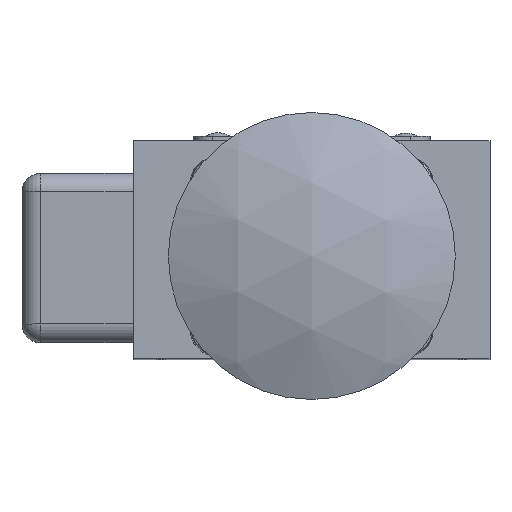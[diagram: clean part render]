
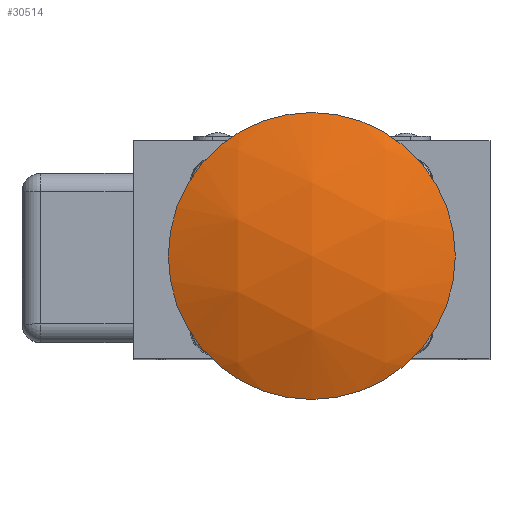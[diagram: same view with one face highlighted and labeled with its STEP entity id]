
A CAD part, top view. The second image highlights one B-rep face of the part: STEP entity #30514.
In plain terms, the highlighted spherical face has radius 53.924 mm.
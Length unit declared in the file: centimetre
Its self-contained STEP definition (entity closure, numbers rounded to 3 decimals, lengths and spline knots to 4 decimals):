
#185=SPHERICAL_SURFACE('',#32443,5.3924);
#6222=FACE_OUTER_BOUND('',#8029,.T.);
#8029=EDGE_LOOP('',(#19483,#19484));
#10045=CIRCLE('',#32444,2.3019);
#10046=CIRCLE('',#32445,2.3019);
#11828=VERTEX_POINT('',#46006);
#11829=VERTEX_POINT('',#46007);
#14810=EDGE_CURVE('',#11828,#11829,#10045,.T.);
#14811=EDGE_CURVE('',#11829,#11828,#10046,.T.);
#19483=ORIENTED_EDGE('',*,*,#14810,.F.);
#19484=ORIENTED_EDGE('',*,*,#14811,.F.);
#30514=ADVANCED_FACE('',(#6222),#185,.T.);
#32443=AXIS2_PLACEMENT_3D('',#46005,#36065,#36066);
#32444=AXIS2_PLACEMENT_3D('',#46008,#36067,#36068);
#32445=AXIS2_PLACEMENT_3D('',#46009,#36069,#36070);
#36065=DIRECTION('center_axis',(-1.,0.,0.));
#36066=DIRECTION('ref_axis',(0.,0.011,1.));
#36067=DIRECTION('center_axis',(0.,0.,
-1.));
#36068=DIRECTION('ref_axis',(0.,-1.,0.));
#36069=DIRECTION('center_axis',(0.,0.,
-1.));
#36070=DIRECTION('ref_axis',(0.,-1.,0.));
#46005=CARTESIAN_POINT('Origin',(0.,0.,
5.0571));
#46006=CARTESIAN_POINT('',(0.,-2.3019,9.9336));
#46007=CARTESIAN_POINT('',(0.,2.3019,9.9336));
#46008=CARTESIAN_POINT('Origin',(0.,0.,
9.9336));
#46009=CARTESIAN_POINT('Origin',(0.,0.,
9.9336));
